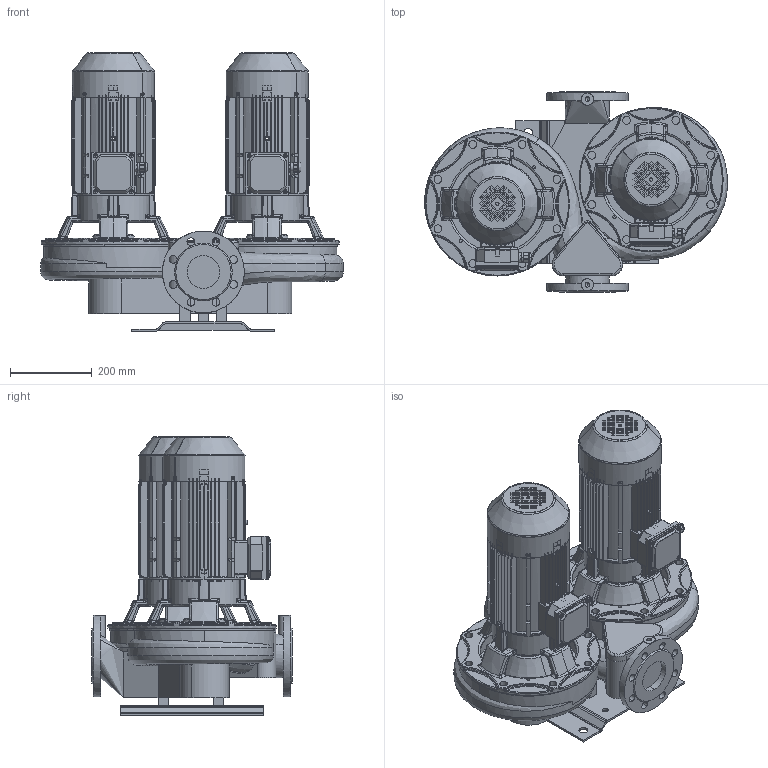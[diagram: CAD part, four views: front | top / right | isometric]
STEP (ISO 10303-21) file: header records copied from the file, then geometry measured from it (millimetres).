
FILE_DESCRIPTION(('STEP AP214'),'1');
FILE_NAME('export.stp','2018-05-30T08:05:38',(' '),(' '),'Spatial InterOp 3D',' ',' ');
FILE_SCHEMA(('AUTOMOTIVE_DESIGN { 1 0 10303 214 1 1 1 1 }'));
Length unit declared in the file: millimetre
Products named in the file (29): W_T80S4300-KP100; V_TLL50S80S; V_PPT80S; P100496; P100495; P100342; 160012; 160010; V_MKP100_2F29; 160141; 160137; 160138; 160139; 160140; Koura_Ale_M5; Plug_Blind_M20; Sealing_Plug_M20; DIN_7985-M5X8; DIN_7985-M5X12; 480041; 480040___; 480043; 480042___; 160136
Assembly tree (49 placements, depth 4):
  W_T80S4300-KP100
    V_TLL50S80S  x2
    V_PPT80S
    P100496
      P100495  x2
      P100342
    V_MKP100_2F29
      160012
        160010
      160141
        160137
        160138
        160139
        160140
        Koura_Ale_M5
        Plug_Blind_M20
        Sealing_Plug_M20
        DIN_7985-M5X8
        DIN_7985-M5X12  x4
      480041
        480040___
      480043
        480042___
      160136
    V_MKP100_2F29
      160012
        160010
      160141
        160137
        160138
        160139
        160140
        Koura_Ale_M5
        Plug_Blind_M20
        Sealing_Plug_M20
        DIN_7985-M5X8
        DIN_7985-M5X12  x4
      480041
        480040___
      480043
        480042___
      160136
Bounding box: 740.43 x 490 x 681 mm (x, y, z)
Volume: 35349101.3 mm3; surface area: 6902580.9 mm2
Topology: 38 solids, 38 shells, 4999 faces, 13192 edges, 8275 vertices
Faces by surface type: plane 2053, cylinder 1429, bspline 607, torus 518, cone 338, sphere 54
Entity records: 105964 total; most frequent: CARTESIAN_POINT 39423, ORIENTED_EDGE 13602, DIRECTION 12428, EDGE_CURVE 6801, AXIS2_PLACEMENT_3D 4712, VERTEX_POINT 4304, LINE 3004, VECTOR 3004
